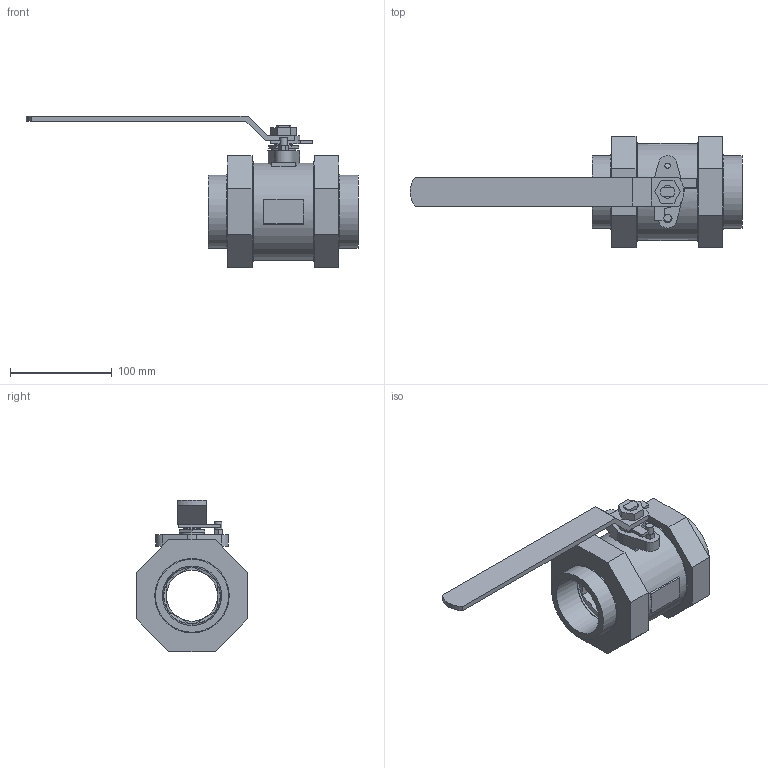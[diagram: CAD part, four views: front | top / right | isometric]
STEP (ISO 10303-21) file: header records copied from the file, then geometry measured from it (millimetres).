
FILE_DESCRIPTION((' '),'2;1');
FILE_NAME('N:\Technical Support\Private\Jomar Valve CAD\Ball Valves\CS and SS\2002N-DUE\2.0 T-CS[SS]-2002N-DUE (100-998 [100-988])FusionCopy.stp.step','2017-01-24T13:06:04',(' '),(' '),' ','ACIS',' ');
FILE_SCHEMA(('CONFIG_CONTROL_DESIGN'));
Length unit declared in the file: inch
Products named in the file (14): N:\Technical Support\Private\Jomar Valve CAD\Ball Valves\CS and SS\2002N-DUE\2.0 T-CS[SS]-2002N-DUE (100-998 [100-988])FusionCopy.stp.step; Body1; Body2; Body3; Body4; Body5; Body6; Body7; Body8; Body9; Body10; Body11; Body12; Body13
Assembly tree (13 placements, depth 2):
  N:\Technical Support\Private\Jomar Valve CAD\Ball Valves\CS and SS\2002N-DUE\2.0 T-CS[SS]-2002N-DUE (100-998 [100-988])FusionCopy.stp.step
    Body1
    Body2
    Body3
    Body4
    Body5
    Body6
    Body7
    Body8
    Body9
    Body10
    Body11
    Body12
    Body13
Bounding box: 325.9 x 109.73 x 148.48 mm (x, y, z)
Volume: 790328.4 mm3; surface area: 172237.3 mm2
Topology: 13 solids, 13 shells, 178 faces, 394 edges, 261 vertices
Faces by surface type: plane 104, bspline 36, cylinder 34, cone 4
Full cylindrical faces by diameter (mm): 5.207 x1, 6.223 x1, 7.315 x1, 12.395 x1, 17.018 x1, 23.698 x1, 50.038 x1, 55.372 x1, 66.802 x2, 71.628 x1, 72.136 x2, 72.898 x1, 73.025 x1, 79.426 x1, 79.883 x1, 83.312 x1, 95.25 x1, 96.266 x1, 97.79 x1
Entity records: 6814 total; most frequent: CARTESIAN_POINT 1072, DIRECTION 785, ORIENTED_EDGE 694, EDGE_CURVE 347, AXIS2_PLACEMENT_3D 277, EDGE_LOOP 257, VERTEX_POINT 250, VECTOR 231
